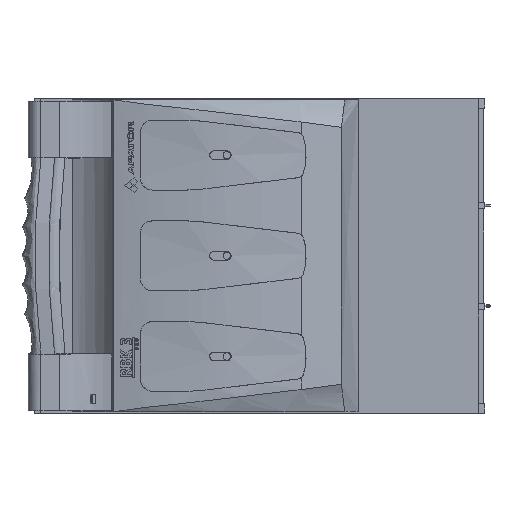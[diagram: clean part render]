
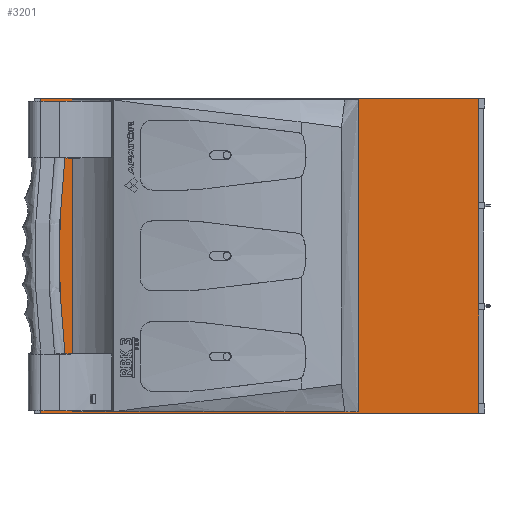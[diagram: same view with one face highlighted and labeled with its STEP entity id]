
A CAD part, top view. The second image highlights one B-rep face of the part: STEP entity #3201.
In plain terms, the highlighted planar face has unit normal (0, 0, 1).
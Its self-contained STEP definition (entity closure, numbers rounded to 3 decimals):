
#3020=FACE_BOUND('',#7015,.T.);
#3021=FACE_BOUND('',#7016,.T.);
#3201=ADVANCED_FACE('',(#3020,#3021),#4813,.F.);
#4813=PLANE('',#32851);
#7015=EDGE_LOOP('',(#14977,#14978,#14979,#14980));
#7016=EDGE_LOOP('',(#14981,#14982,#14983,#14984));
#8789=LINE('',#41687,#11193);
#8811=LINE('',#41806,#11215);
#8901=LINE('',#44931,#11309);
#8902=LINE('',#44932,#11310);
#8903=LINE('',#44933,#11311);
#8904=LINE('',#44936,#11312);
#8905=LINE('',#44938,#11313);
#8906=LINE('',#44940,#11314);
#11193=VECTOR('',#34778,1.);
#11215=VECTOR('',#34864,1.);
#11309=VECTOR('',#35082,1.);
#11310=VECTOR('',#35083,1.);
#11311=VECTOR('',#35084,1.);
#11312=VECTOR('',#35085,1.);
#11313=VECTOR('',#35086,1.);
#11314=VECTOR('',#35087,1.);
#14977=ORIENTED_EDGE('',*,*,#26463,.F.);
#14978=ORIENTED_EDGE('',*,*,#27135,.T.);
#14979=ORIENTED_EDGE('',*,*,#26518,.T.);
#14980=ORIENTED_EDGE('',*,*,#27136,.T.);
#14981=ORIENTED_EDGE('',*,*,#27137,.T.);
#14982=ORIENTED_EDGE('',*,*,#27138,.F.);
#14983=ORIENTED_EDGE('',*,*,#27139,.F.);
#14984=ORIENTED_EDGE('',*,*,#27140,.T.);
#23403=VERTEX_POINT('',#41686);
#23404=VERTEX_POINT('',#41688);
#23456=VERTEX_POINT('',#41805);
#23457=VERTEX_POINT('',#41807);
#24062=VERTEX_POINT('',#44934);
#24063=VERTEX_POINT('',#44935);
#24064=VERTEX_POINT('',#44937);
#24065=VERTEX_POINT('',#44939);
#26463=EDGE_CURVE('',#23403,#23404,#8789,.T.);
#26518=EDGE_CURVE('',#23457,#23456,#8811,.T.);
#27135=EDGE_CURVE('',#23403,#23457,#8901,.T.);
#27136=EDGE_CURVE('',#23456,#23404,#8902,.T.);
#27137=EDGE_CURVE('',#24062,#24063,#8903,.T.);
#27138=EDGE_CURVE('',#24064,#24063,#8904,.T.);
#27139=EDGE_CURVE('',#24065,#24064,#8905,.T.);
#27140=EDGE_CURVE('',#24065,#24062,#8906,.T.);
#32851=AXIS2_PLACEMENT_3D('',#44941,#35088,#35089);
#34778=DIRECTION('',(1.,0.,0.));
#34864=DIRECTION('',(1.,0.,0.));
#35082=DIRECTION('',(0.,-1.,0.));
#35083=DIRECTION('',(0.,1.,0.));
#35084=DIRECTION('',(-1.,0.,0.));
#35085=DIRECTION('',(0.,-1.,0.));
#35086=DIRECTION('',(-1.,0.,0.));
#35087=DIRECTION('',(0.,-1.,0.));
#35088=DIRECTION('',(0.,0.,-1.));
#35089=DIRECTION('',(0.,1.,0.));
#41686=CARTESIAN_POINT('',(-155.5,125.,84.5));
#41687=CARTESIAN_POINT('',(-127.,125.,84.5));
#41688=CARTESIAN_POINT('',(192.83,125.,84.5));
#41805=CARTESIAN_POINT('',(192.83,-125.,84.5));
#41806=CARTESIAN_POINT('',(93.,-125.,84.5));
#41807=CARTESIAN_POINT('',(-155.5,-125.,84.5));
#44931=CARTESIAN_POINT('',(-155.5,120.5,84.5));
#44932=CARTESIAN_POINT('',(192.83,-120.4,84.5));
#44933=CARTESIAN_POINT('',(-17.275,-124.,84.5));
#44934=CARTESIAN_POINT('',(97.261,-124.,84.5));
#44935=CARTESIAN_POINT('',(-129.969,-124.,84.5));
#44936=CARTESIAN_POINT('',(-129.969,120.5,84.5));
#44937=CARTESIAN_POINT('',(-129.969,124.,84.5));
#44938=CARTESIAN_POINT('',(93.,124.,84.5));
#44939=CARTESIAN_POINT('',(97.261,124.,84.5));
#44940=CARTESIAN_POINT('',(97.261,129.232,84.5));
#44941=CARTESIAN_POINT('',(93.,120.5,84.5));
